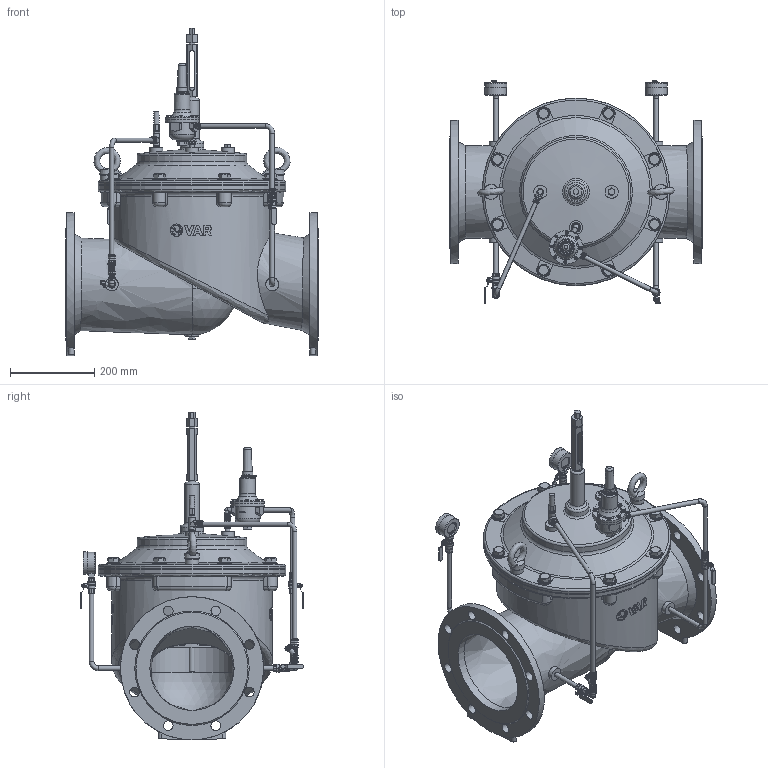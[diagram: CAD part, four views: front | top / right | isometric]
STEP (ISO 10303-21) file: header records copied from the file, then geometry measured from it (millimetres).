
FILE_DESCRIPTION(('STEP AP242'), '1');
FILE_NAME('PICO C200', '', ('UNSPECIFIED'), ('UNSPECIFIED'), 'C3D Converter', 'C3D Toolkit', '');
FILE_SCHEMA(('AP242_MANAGED_MODEL_BASED_3D_ENGINEERING_MIM_LF { 1 0 10303 442 1 1 4 }'));
Length unit declared in the file: millimetre
Products named in the file (26): М; ВР.752218.002
Assembly tree (61 placements, depth 3):
  (unnamed)
    (unnamed)
    (unnamed)
    (unnamed)
    (unnamed)
    (unnamed)
    (unnamed)
    (unnamed)
    М  x2
    (unnamed)
    (unnamed)  x4
    ВР.752218.002  x2
    (unnamed)  x6
    (unnamed)
    (unnamed)  x4
    (unnamed)
    (unnamed)
      (unnamed)
      (unnamed)
      (unnamed)  x8
      (unnamed)
    (unnamed)
    (unnamed)  x2
    (unnamed)  x2
    (unnamed)  x8
    (unnamed)  x8
Bounding box: 600 x 530 x 778 mm (x, y, z)
Volume: 16388518.6 mm3; surface area: 3159635.3 mm2
Topology: 67 solids, 69 shells, 2866 faces, 7201 edges, 4718 vertices
Faces by surface type: plane 1590, cylinder 622, cone 313, extrusion 135, torus 109, bspline 86, sphere 11
Full cylindrical faces by diameter (mm): 0.518 x2, 1.2 x1, 2.5 x2, 3 x8, 4 x25, 4.2 x4, 4.5 x4, 5 x2, 6 x8, 7 x8, 8 x5, 8.7 x1, 9 x16, 9.3 x6, 9.5 x2, 10 x4, 10.2 x4, 10.8 x2, 11 x18, 11.16 x4, 11.179 x6, 11.22 x4, 11.4 x2, 11.577 x2, 12 x1, 12.5 x3, 12.573 x15, 13.157 x2, 13.8 x4, 14 x9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
Entity records: 115020 total; most frequent: CARTESIAN_POINT 65640, ORIENTED_EDGE 7838, DIRECTION 7152, EDGE_CURVE 3919, VERTEX_POINT 2804, AXIS2_PLACEMENT_3D 2635, EDGE_LOOP 2417, FACE_BOUND 1903
